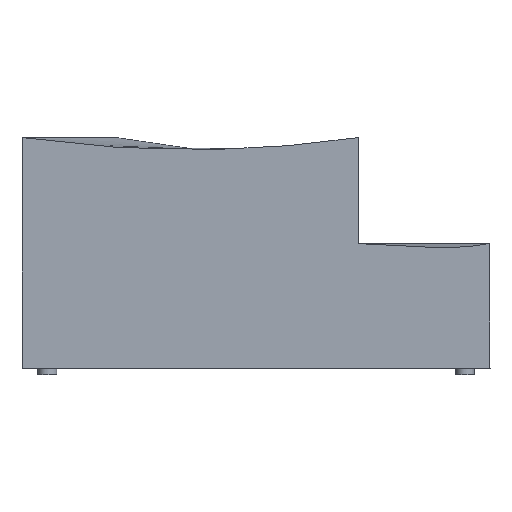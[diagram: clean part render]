
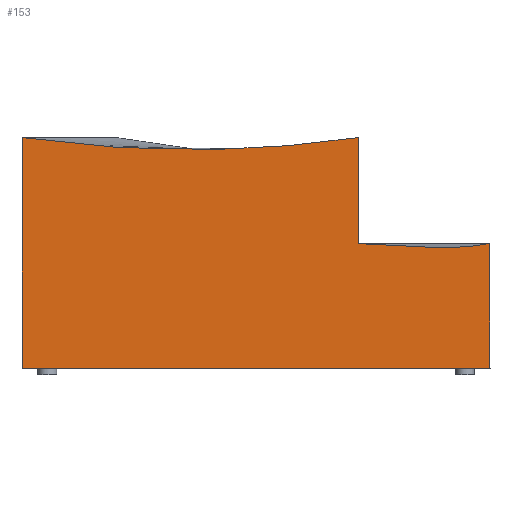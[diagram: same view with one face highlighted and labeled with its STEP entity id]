
A CAD part, left-side view. The second image highlights one B-rep face of the part: STEP entity #153.
In plain terms, the highlighted planar face has unit normal (-1, 0, 0).
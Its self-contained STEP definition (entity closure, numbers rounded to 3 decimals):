
#17=B_SPLINE_CURVE_WITH_KNOTS('',3,(#1265,#1266,#1267,#1268,#1269,#1270),
 .UNSPECIFIED.,.F.,.F.,(4,1,1,4),(6340.508,6448.818,6557.129,
6665.439),.UNSPECIFIED.);
#28=B_SPLINE_CURVE_WITH_KNOTS('',2,(#1304,#1305,#1306),.UNSPECIFIED.,.F.,
 .F.,(3,3),(-1.,0.),.UNSPECIFIED.);
#32=B_SPLINE_CURVE_WITH_KNOTS('',3,(#1316,#1317,#1318,#1319,#1320,#1321),
 .UNSPECIFIED.,.F.,.F.,(4,1,1,4),(-1961.163,-1767.883,-1574.603,
-1381.324),.UNSPECIFIED.);
#37=B_SPLINE_CURVE_WITH_KNOTS('',2,(#1340,#1341,#1342),.UNSPECIFIED.,.F.,
 .F.,(3,3),(-6340.508,-5719.949),.UNSPECIFIED.);
#44=B_SPLINE_CURVE_WITH_KNOTS('',3,(#1364,#1365,#1366,#1367,#1368,#1369),
 .UNSPECIFIED.,.F.,.F.,(4,1,1,4),(0.,246.801,493.602,
740.403),.UNSPECIFIED.);
#45=B_SPLINE_CURVE_WITH_KNOTS('',2,(#1370,#1371,#1372),.UNSPECIFIED.,.F.,
 .F.,(3,3),(-5140.109,-3443.043),.UNSPECIFIED.);
#153=ADVANCED_FACE('',(#213),#769,.T.);
#213=FACE_OUTER_BOUND('',#273,.T.);
#273=EDGE_LOOP('',(#409,#410,#411,#412,#413,#414));
#409=ORIENTED_EDGE('',*,*,#561,.F.);
#410=ORIENTED_EDGE('',*,*,#577,.F.);
#411=ORIENTED_EDGE('',*,*,#578,.F.);
#412=ORIENTED_EDGE('',*,*,#565,.F.);
#413=ORIENTED_EDGE('',*,*,#570,.F.);
#414=ORIENTED_EDGE('',*,*,#550,.T.);
#550=EDGE_CURVE('',#704,#705,#17,.T.);
#561=EDGE_CURVE('',#712,#705,#28,.T.);
#565=EDGE_CURVE('',#715,#716,#32,.T.);
#570=EDGE_CURVE('',#704,#715,#37,.T.);
#577=EDGE_CURVE('',#723,#712,#44,.T.);
#578=EDGE_CURVE('',#716,#723,#45,.T.);
#704=VERTEX_POINT('',#1245);
#705=VERTEX_POINT('',#1246);
#712=VERTEX_POINT('',#1253);
#715=VERTEX_POINT('',#1256);
#716=VERTEX_POINT('',#1257);
#723=VERTEX_POINT('',#1264);
#769=PLANE('',#901);
#901=AXIS2_PLACEMENT_3D('',#1244,#941,$);
#941=DIRECTION('',(-1.,0.,0.));
#1244=CARTESIAN_POINT('',(-3663.36,-1515.116,767.4));
#1245=CARTESIAN_POINT('',(-3663.36,-1076.98,420.));
#1246=CARTESIAN_POINT('',(-3663.36,-1077.496,760.));
#1253=CARTESIAN_POINT('',(-3663.36,1.215,760.));
#1256=CARTESIAN_POINT('',(-3663.36,-1500.103,420.193));
#1257=CARTESIAN_POINT('',(-3663.36,-1500.103,20.));
#1264=CARTESIAN_POINT('',(-3663.36,-0.06,19.999));
#1265=CARTESIAN_POINT('',(-3663.36,-1076.98,420.));
#1266=CARTESIAN_POINT('',(-3663.36,-1077.592,467.998));
#1267=CARTESIAN_POINT('',(-3663.36,-1077.555,538.102));
#1268=CARTESIAN_POINT('',(-3663.36,-1077.53,654.845));
#1269=CARTESIAN_POINT('',(-3663.36,-1077.507,724.948));
#1270=CARTESIAN_POINT('',(-3663.36,-1077.496,760.));
#1304=CARTESIAN_POINT('',(-3663.36,1.215,760.));
#1305=CARTESIAN_POINT('',(-3663.36,-537.901,681.915));
#1306=CARTESIAN_POINT('',(-3663.36,-1077.496,760.));
#1316=CARTESIAN_POINT('',(-3663.36,-1500.103,420.193));
#1317=CARTESIAN_POINT('',(-3663.36,-1500.103,375.727));
#1318=CARTESIAN_POINT('',(-3663.36,-1500.103,286.795));
#1319=CARTESIAN_POINT('',(-3663.36,-1500.103,153.398));
#1320=CARTESIAN_POINT('',(-3663.36,-1500.103,64.466));
#1321=CARTESIAN_POINT('',(-3663.36,-1500.103,20.));
#1340=CARTESIAN_POINT('',(-3663.36,-1076.98,420.));
#1341=CARTESIAN_POINT('',(-3663.36,-1387.347,393.304));
#1342=CARTESIAN_POINT('',(-3663.36,-1500.103,420.193));
#1364=CARTESIAN_POINT('',(-3663.36,-0.06,19.999));
#1365=CARTESIAN_POINT('',(-3663.36,0.082,100.934));
#1366=CARTESIAN_POINT('',(-3663.36,0.365,262.804));
#1367=CARTESIAN_POINT('',(-3663.36,0.79,505.608));
#1368=CARTESIAN_POINT('',(-3663.36,1.074,679.065));
#1369=CARTESIAN_POINT('',(-3663.36,1.215,760.));
#1370=CARTESIAN_POINT('',(-3663.36,-1500.103,20.));
#1371=CARTESIAN_POINT('',(-3663.36,-750.081,20.));
#1372=CARTESIAN_POINT('',(-3663.36,-0.06,19.999));
